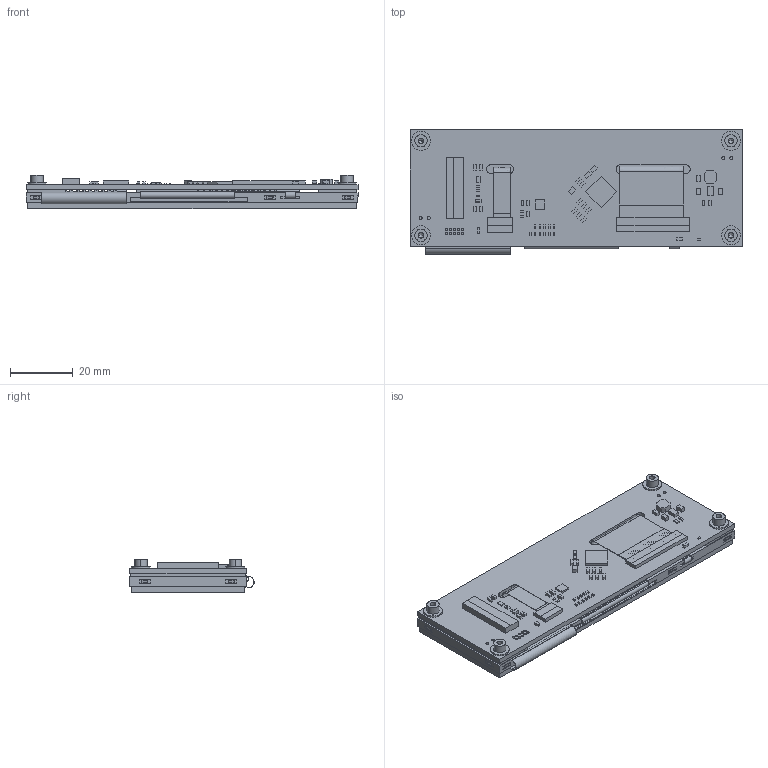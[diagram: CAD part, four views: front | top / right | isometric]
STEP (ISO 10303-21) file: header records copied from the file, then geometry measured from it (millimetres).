
FILE_DESCRIPTION (( 'STEP AP214' ), '1' );
FILE_NAME ('CFAF480128A0-039TC-A1-1.STEP', '2020-02-07T00:31:13', ( '' ), ( '' ), 'SwSTEP 2.0', 'SolidWorks 2015', '' );
FILE_SCHEMA (( 'AUTOMOTIVE_DESIGN' ));
Length unit declared in the file: millimetre
Products named in the file (5): VHB_Tape_10099_Short; CFAF480128A0-039TC; VHB_Tape_10099; CFA_10099; CFAF480128A0-039TC-A1-1
Assembly tree (5 placements, depth 2):
  CFAF480128A0-039TC-A1-1
    CFA_10099
    VHB_Tape_10099  x2
    VHB_Tape_10099_Short
    CFAF480128A0-039TC
Bounding box: 105.5 x 39.49 x 10.73 mm (x, y, z)
Volume: 28019 mm3; surface area: 33968.8 mm2
Topology: 8 solids, 8 shells, 1000 faces, 2559 edges, 1702 vertices
Faces by surface type: plane 887, cylinder 101, cone 8, bspline 4
Entity records: 41347 total; most frequent: CARTESIAN_POINT 9605, ORIENTED_EDGE 5078, DIRECTION 3407, EDGE_CURVE 2539, VERTEX_POINT 1694, B_SPLINE_CURVE_WITH_KNOTS 1242, EDGE_LOOP 1161, AXIS2_PLACEMENT_3D 1156
